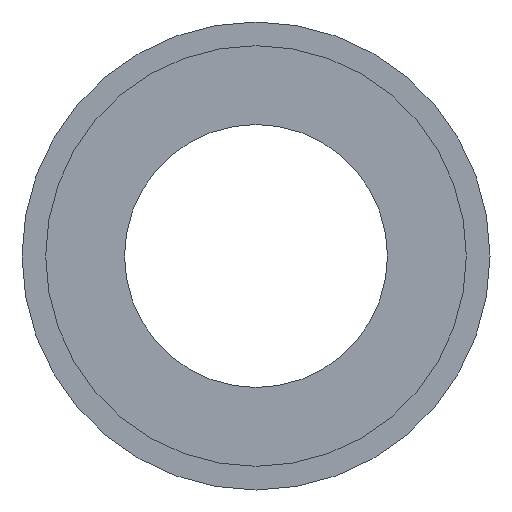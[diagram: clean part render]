
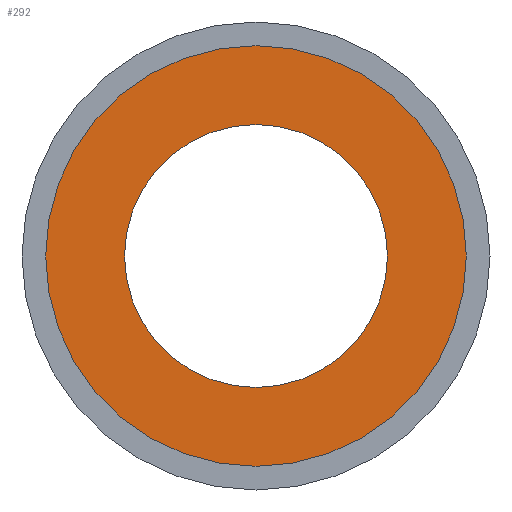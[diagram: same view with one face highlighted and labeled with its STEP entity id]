
A CAD part, front view. The second image highlights one B-rep face of the part: STEP entity #292.
In plain terms, the highlighted planar face has unit normal (0, -1, 0).
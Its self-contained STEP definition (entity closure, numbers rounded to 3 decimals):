
#276 = VERTEX_POINT ( 'NONE', #856 ) ;
#292 = ADVANCED_FACE ( 'NONE', ( #3020, #985 ), #934, .F. ) ;
#303 = DIRECTION ( 'NONE',  ( 0., -1., 0. ) ) ;
#546 = AXIS2_PLACEMENT_3D ( 'NONE', #708, #2488, #958 ) ;
#682 = DIRECTION ( 'NONE',  ( 0., 0., 1. ) ) ;
#708 = CARTESIAN_POINT ( 'NONE',  ( 0., -16.5, 0. ) ) ;
#746 = CIRCLE ( 'NONE', #987, 25. ) ;
#856 = CARTESIAN_POINT ( 'NONE',  ( 0., -16.5, -25. ) ) ;
#926 = AXIS2_PLACEMENT_3D ( 'NONE', #1807, #303, #1839 ) ;
#934 = PLANE ( 'NONE',  #2200 ) ;
#958 = DIRECTION ( 'NONE',  ( 0., 0., -1. ) ) ;
#985 = FACE_OUTER_BOUND ( 'NONE', #1991, .T. ) ;
#987 = AXIS2_PLACEMENT_3D ( 'NONE', #2089, #2597, #1076 ) ;
#1076 = DIRECTION ( 'NONE',  ( 0., 0., -1. ) ) ;
#1193 = DIRECTION ( 'NONE',  ( 0., 1., 0. ) ) ;
#1209 = ORIENTED_EDGE ( 'NONE', *, *, #2206, .T. ) ;
#1426 = VERTEX_POINT ( 'NONE', #2494 ) ;
#1578 = CIRCLE ( 'NONE', #3185, 40. ) ;
#1589 = EDGE_LOOP ( 'NONE', ( #3120, #2067 ) ) ;
#1760 = VERTEX_POINT ( 'NONE', #2301 ) ;
#1774 = EDGE_CURVE ( 'NONE', #1760, #2193, #1578, .T. ) ;
#1805 = DIRECTION ( 'NONE',  ( 0., -1., 0. ) ) ;
#1807 = CARTESIAN_POINT ( 'NONE',  ( 0., -16.5, 0. ) ) ;
#1839 = DIRECTION ( 'NONE',  ( 0., 0., -1. ) ) ;
#1991 = EDGE_LOOP ( 'NONE', ( #3113, #1209 ) ) ;
#2067 = ORIENTED_EDGE ( 'NONE', *, *, #2625, .F. ) ;
#2089 = CARTESIAN_POINT ( 'NONE',  ( 0., -16.5, 0. ) ) ;
#2193 = VERTEX_POINT ( 'NONE', #3117 ) ;
#2200 = AXIS2_PLACEMENT_3D ( 'NONE', #3209, #1193, #682 ) ;
#2206 = EDGE_CURVE ( 'NONE', #2193, #1760, #2869, .T. ) ;
#2247 = EDGE_CURVE ( 'NONE', #276, #1426, #746, .T. ) ;
#2301 = CARTESIAN_POINT ( 'NONE',  ( 0., -16.5, -40. ) ) ;
#2488 = DIRECTION ( 'NONE',  ( 0., -1., 0. ) ) ;
#2494 = CARTESIAN_POINT ( 'NONE',  ( 0., -16.5, 25. ) ) ;
#2572 = CARTESIAN_POINT ( 'NONE',  ( 0., -16.5, 0. ) ) ;
#2597 = DIRECTION ( 'NONE',  ( 0., -1., 0. ) ) ;
#2625 = EDGE_CURVE ( 'NONE', #1426, #276, #2716, .T. ) ;
#2716 = CIRCLE ( 'NONE', #546, 25. ) ;
#2836 = DIRECTION ( 'NONE',  ( 0., 0., -1. ) ) ;
#2869 = CIRCLE ( 'NONE', #926, 40. ) ;
#3020 = FACE_BOUND ( 'NONE', #1589, .T. ) ;
#3113 = ORIENTED_EDGE ( 'NONE', *, *, #1774, .T. ) ;
#3117 = CARTESIAN_POINT ( 'NONE',  ( 0., -16.5, 40. ) ) ;
#3120 = ORIENTED_EDGE ( 'NONE', *, *, #2247, .F. ) ;
#3185 = AXIS2_PLACEMENT_3D ( 'NONE', #2572, #1805, #2836 ) ;
#3209 = CARTESIAN_POINT ( 'NONE',  ( 0., -16.5, 25. ) ) ;
